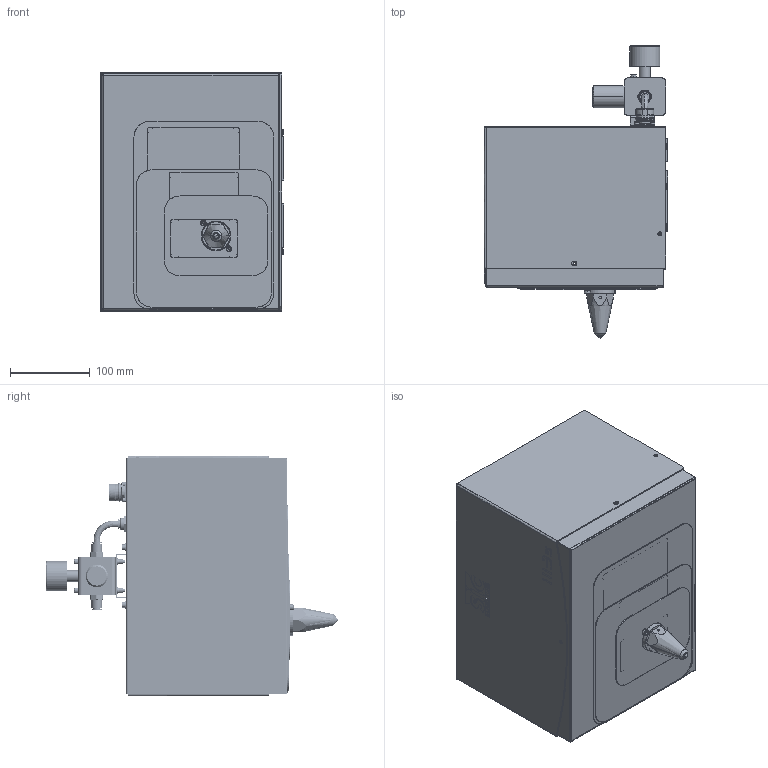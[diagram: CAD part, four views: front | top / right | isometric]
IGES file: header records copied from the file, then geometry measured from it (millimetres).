
Start section: SolidWorks IGES file using analytic representation for surfaces
Global section: file name: V:\04 - Produits\203 - i113s\02 - Diffusion commerciale\4 200 022.IGS; native system: SolidWorks 2008; preprocessor: SolidWorks 2008; author: sic39; date: 091127.102338; units: millimetre
Bounding box: 230.2 x 365.5 x 300 mm (x, y, z)
Surface area: 992454.1 mm2 (no closed solid volume)
Topology: 0 solids, 0 shells, 1981 faces, 26417 edges, 26361 vertices
Faces by surface type: bspline 1047, revolution 934
